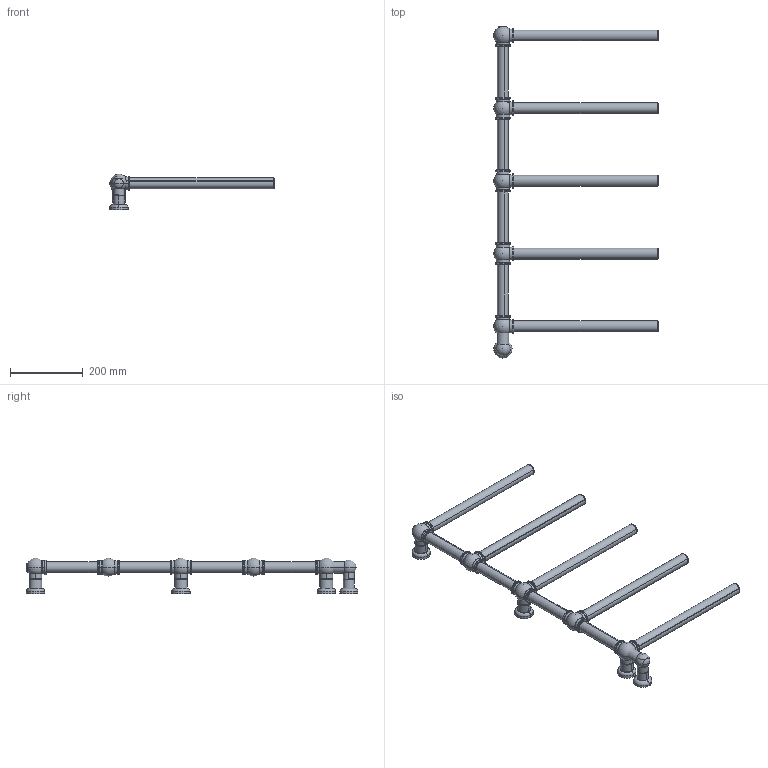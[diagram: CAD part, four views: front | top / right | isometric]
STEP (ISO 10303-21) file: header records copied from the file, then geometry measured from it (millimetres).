
FILE_DESCRIPTION (( 'STEP AP203' ), '1' );
FILE_NAME ('EECAEY05450.STEP', '2026-03-03T15:21:10', ( '' ), ( '' ), 'SwSTEP 2.0', 'SolidWorks 2025', '' );
FILE_SCHEMA (( 'CONFIG_CONTROL_DESIGN' ));
Length unit declared in the file: millimetre
Products named in the file (9): SFERA-FIX - INTERMEDIA; VITE; SFERA; ELEC EASY; BRACCIO CAESAR SD; TUBO-V_150; SFERA-FIX - DX; EECAEY05450; SFERA-FIX - SX
Assembly tree (16 placements, depth 2):
  EECAEY05450
    SFERA-FIX - SX
    TUBO-V_150  x4
    SFERA  x2
    ELEC EASY
    BRACCIO CAESAR SD  x5
    SFERA-FIX - DX
    VITE
    SFERA-FIX - INTERMEDIA
Bounding box: 452 x 913 x 98 mm (x, y, z)
Volume: 716192.1 mm3; surface area: 683506.8 mm2
Topology: 16 solids, 16 shells, 427 faces, 961 edges, 579 vertices
Faces by surface type: cylinder 184, torus 108, plane 83, sphere 30, bspline 16, cone 6
Entity records: 11558 total; most frequent: CARTESIAN_POINT 3546, DIRECTION 1515, ORIENTED_EDGE 1412, EDGE_CURVE 706, AXIS2_PLACEMENT_3D 677, VERTEX_POINT 426, EDGE_LOOP 358, CIRCLE 356
